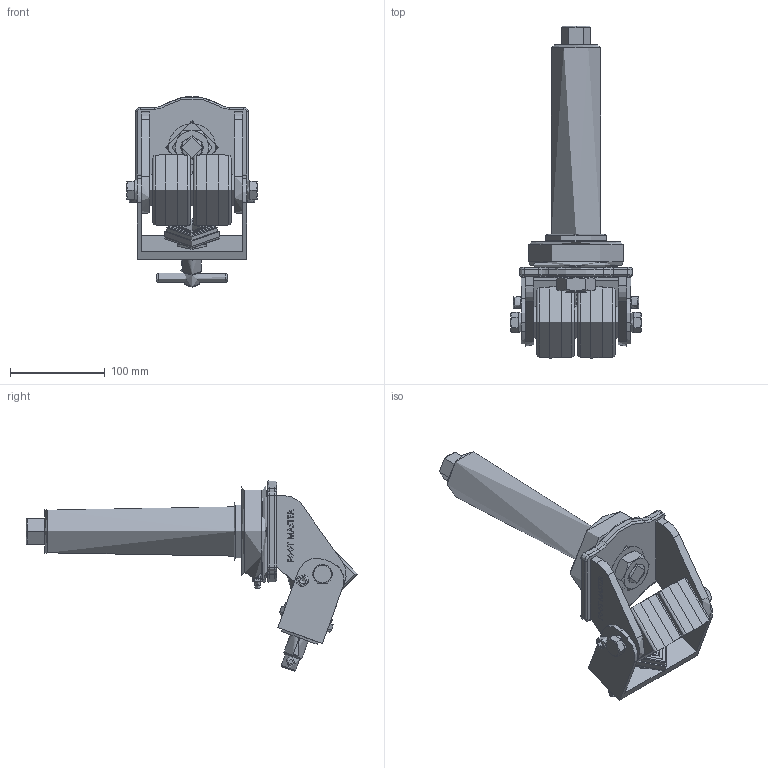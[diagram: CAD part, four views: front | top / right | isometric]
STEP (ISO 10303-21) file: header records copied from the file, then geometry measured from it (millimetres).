
FILE_DESCRIPTION(/* description */ (''),/* implementation_level */ '2;1');
FILE_NAME(/* name */ 'C:\Users\admin\Desktop\업무폴더\일자별 업무\2024\03월\03.08\홈페이지용 3D\3D\GXTT-75-BSS-HUD-PM52x200L.stp',/* time_stamp */ '2024-03-13T17:35:59+09:00',/* author */ ('admin'),/* organization */ (''),/* preprocessor_version */ 'ST-DEVELOPER v18.1',/* originating_system */ 'Autodesk Inventor 2021',/* authorisation */ '');
FILE_SCHEMA (('CONFIG_CONTROL_DESIGN'));
Length unit declared in the file: millimetre
Products named in the file (1): GXTT-75-BSS-HUD-PM52x200L_PART
Bounding box: 138 x 350.5 x 201.13 mm (x, y, z)
Topology: 4 solids, 12 shells, 621 faces, 1489 edges, 953 vertices
Faces by surface type: plane 353, bspline 90, cylinder 70, cone 66, torus 42
Full cylindrical faces by diameter (mm): 1 x1, 6.647 x2, 8 x2, 9 x2, 9.8 x1, 10 x1, 10.2 x1, 11.8 x1, 12 x1, 12.2 x1, 13 x2, 16 x1, 20 x1, 20.6 x2, 21 x1, 24 x1, 32 x1, 33 x3, 36 x1, 40 x1, 42 x1, 50 x1, 52 x1, 54 x1, 58 x1, 60 x1, 64 x1, 75 x2, 85 x1, 100 x1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
Entity records: 19605 total; most frequent: CARTESIAN_POINT 5722, ORIENTED_EDGE 2990, DIRECTION 2605, EDGE_CURVE 1495, VERTEX_POINT 953, AXIS2_PLACEMENT_3D 869, LINE 867, VECTOR 867
